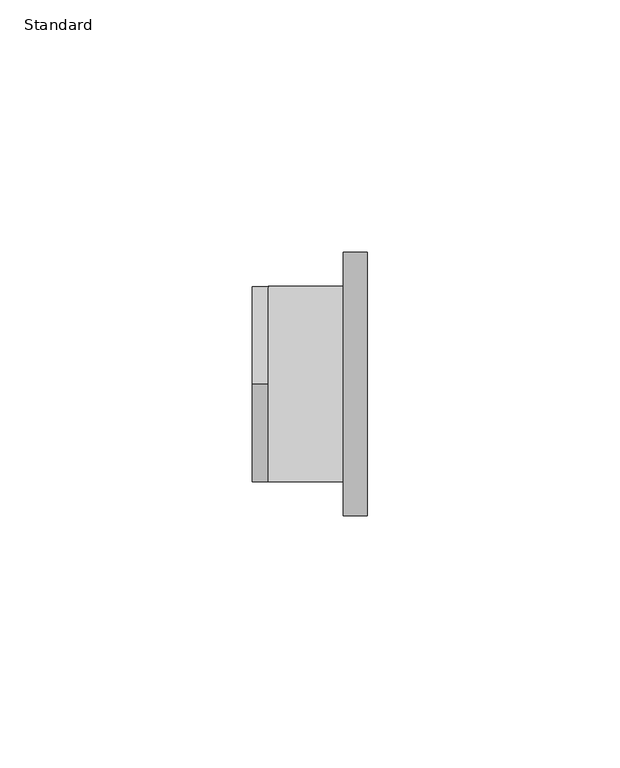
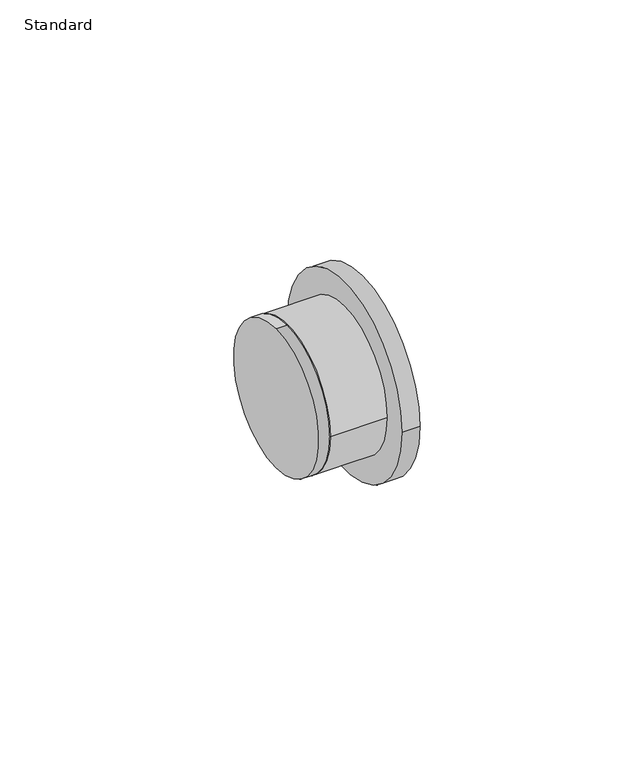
"""IFC4 building model written with IfcOpenShell, lengths in millimetres: pipe fitting geometry, Reducion Bushing_Lubrizol_CPVC_FlowGuard_MX : Standard."""

from ifc_helpers import new_model, si_unit, point, frame, origin, origin_2d, place, context, project, spatial, circle_curve, trimmed, segment, composite_curve, outline, extrude, source, transform, mapped, element, save


def standard_cb519760(model_context):
    return source(origin(), model_context, "Body", "SweptSolid", [
        extrude(outline(composite_curve([segment(trimmed(circle_curve(origin_2d(), 19.35), [point((-19.35, 0.0))], [point((19.35, 0.0))], False, "CARTESIAN"), True, "CONTINUOUS"), segment(trimmed(circle_curve(origin_2d(), 19.35), [point((19.35, 0.0))], [point((-19.35, 0.0))], False, "CARTESIAN"), True, "CONTINUOUS")], self_intersect=False)), frame((3.125, 0.0, 0.0), z_axis=(1.0, 0.0, 0.0), x_axis=(0.0, 1.0, 0.0)), (0.0, 0.0, 1.0), 14.95),
        extrude(outline(composite_curve([segment(trimmed(circle_curve(origin_2d(), 26.11), [point((-26.11, 0.0))], [point((26.11, 0.0))], False, "CARTESIAN"), True, "CONTINUOUS"), segment(trimmed(circle_curve(origin_2d(), 26.11), [point((26.11, 0.0))], [point((-26.11, 0.0))], False, "CARTESIAN"), True, "CONTINUOUS")], self_intersect=False)), frame((18.075, 0.0, 0.0), z_axis=(1.0, 0.0, 0.0), x_axis=(0.0, 1.0, 0.0)), (0.0, 0.0, 1.0), 4.75),
        extrude(outline(composite_curve([segment(trimmed(circle_curve(origin_2d(), 19.35), [point((0.0, 19.35))], [point((0.0, -19.35))], False, "CARTESIAN"), True, "CONTINUOUS"), segment(trimmed(circle_curve(origin_2d(), 19.35), [point((0.0, -19.35))], [point((0.0, 19.35))], False, "CARTESIAN"), True, "CONTINUOUS")], self_intersect=False)), frame((0.0, 0.0, 0.0), z_axis=(1.0, 0.0, 0.0), x_axis=(0.0, 1.0, 0.0)), (0.0, 0.0, 1.0), 3.125),
    ])


if __name__ == "__main__":
    model = new_model("IFC4")
    model_context = context("Model", 3, world=origin())
    ifc_project = project(units=[si_unit("LENGTHUNIT", "METRE", prefix="MILLI")], contexts=[model_context])
    site = spatial("IfcSite", under=ifc_project)
    building = spatial("IfcBuilding", under=site)
    placement = place(None, origin())
    standard_shape = standard_cb519760(model_context)
    element("IfcPipeFitting", 1, ObjectType="Reducion Bushing_Lubrizol_CPVC_FlowGuard_MX : Standard", at=placement, inside=building, context=model_context, shape_type="MappedRepresentation", body=[
        mapped(standard_shape, transform((0.0, 0.0, 0.0), x_axis=(1.0, 0.0, 0.0), y_axis=(0.0, 1.0, 0.0), z_axis=(0.0, 0.0, 1.0))),
    ])
    save(model, "model.ifc")
